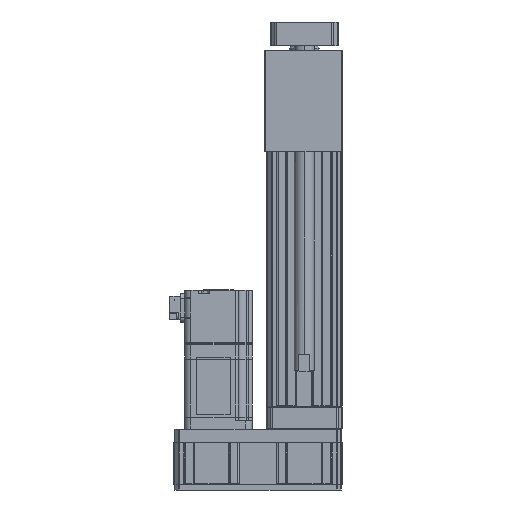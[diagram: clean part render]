
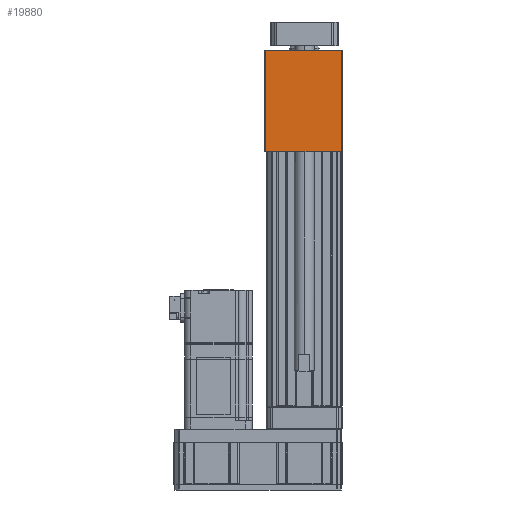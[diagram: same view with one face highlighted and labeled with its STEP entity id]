
A CAD part, front view. The second image highlights one B-rep face of the part: STEP entity #19880.
In plain terms, the highlighted planar face has unit normal (0, -1, 0).
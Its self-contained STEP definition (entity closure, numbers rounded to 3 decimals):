
#1120 = EDGE_CURVE ( 'NONE', #6601, #36006, #18007, .T. ) ;
#1415 = VECTOR ( 'NONE', #19095, 1000. ) ;
#1973 = ORIENTED_EDGE ( 'NONE', *, *, #35642, .T. ) ;
#2374 = DIRECTION ( 'NONE',  ( 0., 0., -1. ) ) ;
#3741 = ORIENTED_EDGE ( 'NONE', *, *, #37610, .T. ) ;
#4596 = DIRECTION ( 'NONE',  ( -1., 0., 0. ) ) ;
#5100 = PLANE ( 'NONE',  #11078 ) ;
#5658 = LINE ( 'NONE', #37563, #20438 ) ;
#5968 = VECTOR ( 'NONE', #2374, 1000. ) ;
#6601 = VERTEX_POINT ( 'NONE', #22457 ) ;
#7233 = CARTESIAN_POINT ( 'NONE',  ( 22., -57.5, 211. ) ) ;
#8084 = DIRECTION ( 'NONE',  ( 0., 0., -1. ) ) ;
#11029 = FACE_OUTER_BOUND ( 'NONE', #20544, .T. ) ;
#11078 = AXIS2_PLACEMENT_3D ( 'NONE', #19818, #25756, #8084 ) ;
#11920 = ORIENTED_EDGE ( 'NONE', *, *, #1120, .T. ) ;
#14187 = VERTEX_POINT ( 'NONE', #33245 ) ;
#15203 = ORIENTED_EDGE ( 'NONE', *, *, #23762, .T. ) ;
#18007 = LINE ( 'NONE', #22260, #34565 ) ;
#18022 = LINE ( 'NONE', #7233, #1415 ) ;
#19095 = DIRECTION ( 'NONE',  ( 0., 0., 1. ) ) ;
#19818 = CARTESIAN_POINT ( 'NONE',  ( 0., -57.5, 0. ) ) ;
#19880 = ADVANCED_FACE ( 'NONE', ( #11029 ), #5100, .T. ) ;
#20438 = VECTOR ( 'NONE', #25862, 1000. ) ;
#20544 = EDGE_LOOP ( 'NONE', ( #1973, #15203, #11920, #3741 ) ) ;
#21575 = CARTESIAN_POINT ( 'NONE',  ( 22., -57.5, 151. ) ) ;
#22260 = CARTESIAN_POINT ( 'NONE',  ( 22.5, -57.5, 211. ) ) ;
#22457 = CARTESIAN_POINT ( 'NONE',  ( 22., -57.5, 211. ) ) ;
#23762 = EDGE_CURVE ( 'NONE', #31165, #6601, #18022, .T. ) ;
#25756 = DIRECTION ( 'NONE',  ( 0., -1., 0. ) ) ;
#25862 = DIRECTION ( 'NONE',  ( 1., 0., 0. ) ) ;
#27783 = CARTESIAN_POINT ( 'NONE',  ( -23., -57.5, 211. ) ) ;
#30441 = LINE ( 'NONE', #37662, #5968 ) ;
#31165 = VERTEX_POINT ( 'NONE', #21575 ) ;
#33245 = CARTESIAN_POINT ( 'NONE',  ( -23., -57.5, 151. ) ) ;
#34565 = VECTOR ( 'NONE', #4596, 1000. ) ;
#35642 = EDGE_CURVE ( 'NONE', #14187, #31165, #5658, .T. ) ;
#36006 = VERTEX_POINT ( 'NONE', #27783 ) ;
#37563 = CARTESIAN_POINT ( 'NONE',  ( 22.5, -57.5, 151. ) ) ;
#37610 = EDGE_CURVE ( 'NONE', #36006, #14187, #30441, .T. ) ;
#37662 = CARTESIAN_POINT ( 'NONE',  ( -23., -57.5, 151. ) ) ;
